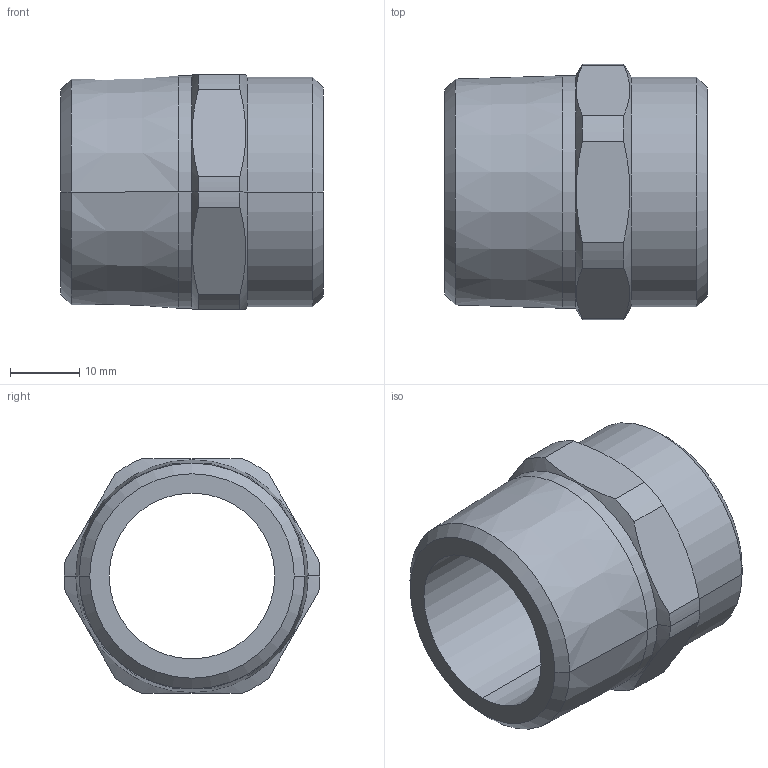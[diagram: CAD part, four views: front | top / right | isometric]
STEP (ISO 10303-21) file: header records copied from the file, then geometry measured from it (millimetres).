
FILE_DESCRIPTION((''),'2;1');
FILE_NAME('G:\BIR\Pajchrowski\projekty\8000 models\4376g\4376g STEP\14376_1-1.stp','2006-04-28T11:32:25',('pajchrowski'),(''),'Autodesk Inventor 8','Autodesk Inventor 8','');
FILE_SCHEMA(('AUTOMOTIVE_DESIGN { 1 0 10303 214 1 1 1 1 }'));
Length unit declared in the file: millimetre
Products named in the file (1): 14376_1-1
Bounding box: 38 x 37 x 34 mm (x, y, z)
Volume: 16383.3 mm3; surface area: 7636.8 mm2
Topology: 1 solids, 1 shells, 32 faces, 76 edges, 46 vertices
Faces by surface type: cylinder 14, cone 10, plane 8
Entity records: 937 total; most frequent: CARTESIAN_POINT 179, DIRECTION 164, ORIENTED_EDGE 152, EDGE_CURVE 76, AXIS2_PLACEMENT_3D 67, VERTEX_POINT 46, CIRCLE 34, EDGE_LOOP 34
